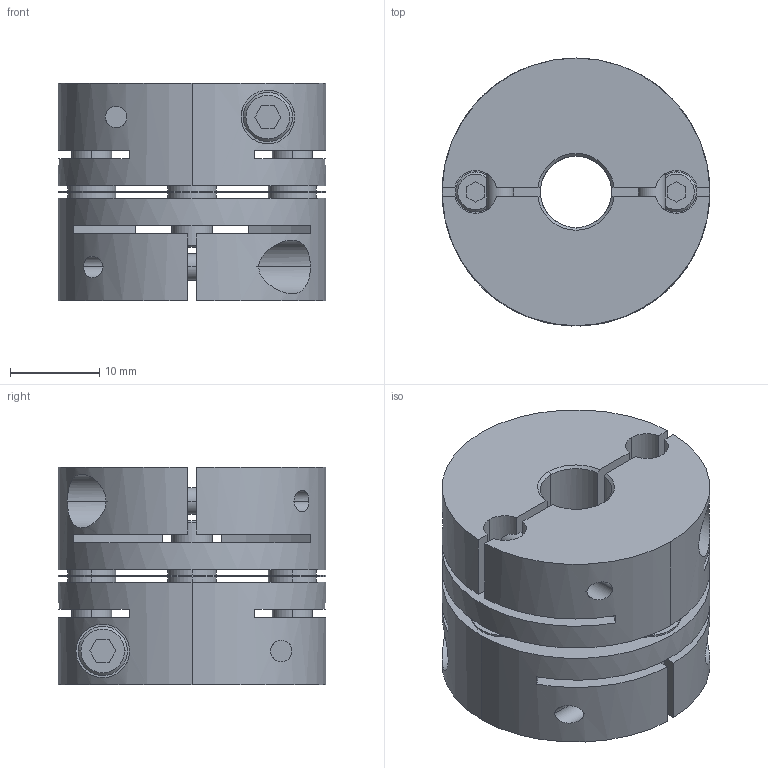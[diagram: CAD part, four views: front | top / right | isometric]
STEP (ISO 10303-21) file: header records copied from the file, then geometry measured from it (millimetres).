
FILE_DESCRIPTION((''),'2;1');
FILE_NAME('LAS-30C-8×14.stp','2011-08-10T13:15:31',(''),(''),'AutoCAD STEP 2000i','AutoCAD 2000i',', , ');
FILE_SCHEMA(('CONFIG_CONTROL_DESIGN'));
Length unit declared in the file: millimetre
Products named in the file (6): LAS-30C-6×10; 忣兜1; LA-3002-D10; LA-3002-D06-1; LA-3002-D06; LAS30-ITA
Assembly tree (5 placements, depth 2):
  LAS-30C-6×10
    忣兜1
    LA-3002-D10
    LA-3002-D06-1
    LA-3002-D06
    LAS30-ITA
Bounding box: 30 x 30 x 24.4 mm (x, y, z)
Volume: 12242.6 mm3; surface area: 8979.9 mm2
Topology: 1 solids, 1 shells, 240 faces, 636 edges, 416 vertices
Faces by surface type: plane 112, cylinder 100, cone 28
Entity records: 8333 total; most frequent: CARTESIAN_POINT 2034, DIRECTION 1316, ORIENTED_EDGE 1272, EDGE_CURVE 636, AXIS2_PLACEMENT_3D 482, VERTEX_POINT 416, VECTOR 352, LINE 352
